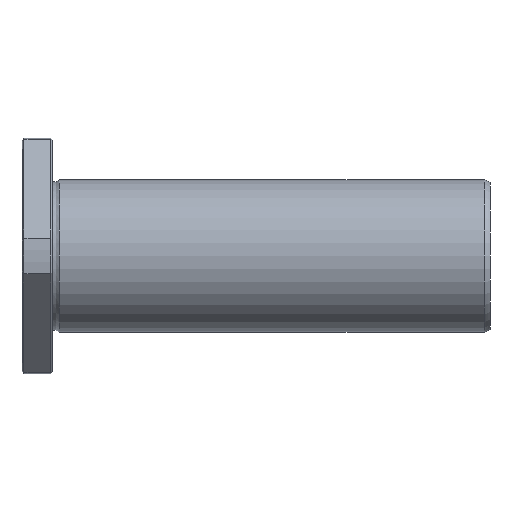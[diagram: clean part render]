
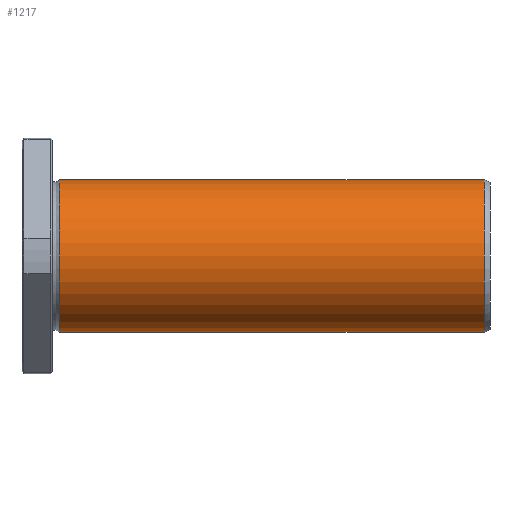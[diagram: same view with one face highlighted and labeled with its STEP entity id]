
A CAD part, front view. The second image highlights one B-rep face of the part: STEP entity #1217.
In plain terms, the highlighted cylindrical face has radius 20 mm (diameter 40 mm), a full revolution.
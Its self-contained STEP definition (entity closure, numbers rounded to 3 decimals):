
#1183=CARTESIAN_POINT('',(121.502,0.0,20.));
#1184=VERTEX_POINT('',#1183);
#1185=CARTESIAN_POINT('',(121.502,0.0,0.0));
#1186=DIRECTION('',(-1.0,0.0,0.0));
#1187=DIRECTION('',(0.0,0.0,1.0));
#1188=AXIS2_PLACEMENT_3D('',#1185,#1186,#1187);
#1189=CIRCLE('',#1188,20.);
#1190=EDGE_CURVE('',#1184,#1184,#1189,.T.);
#1198=CARTESIAN_POINT('',(65.662,0.0,0.0));
#1199=DIRECTION('',(-1.0,0.0,0.0));
#1200=DIRECTION('',(0.0,0.0,1.0));
#1201=AXIS2_PLACEMENT_3D('',#1198,#1199,#1200);
#1202=CYLINDRICAL_SURFACE('',#1201,20.);
#1203=CARTESIAN_POINT('',(9.823,0.0,20.0));
#1204=VERTEX_POINT('',#1203);
#1205=CARTESIAN_POINT('',(9.823,0.0,0.0));
#1206=DIRECTION('',(-1.0,0.0,0.0));
#1207=DIRECTION('',(0.0,0.0,1.0));
#1208=AXIS2_PLACEMENT_3D('',#1205,#1206,#1207);
#1209=CIRCLE('',#1208,20.0);
#1210=EDGE_CURVE('',#1204,#1204,#1209,.T.);
#1211=ORIENTED_EDGE('',*,*,#1210,.F.);
#1212=EDGE_LOOP('',(#1211));
#1213=FACE_OUTER_BOUND('',#1212,.T.);
#1214=ORIENTED_EDGE('',*,*,#1190,.T.);
#1215=EDGE_LOOP('',(#1214));
#1216=FACE_BOUND('',#1215,.T.);
#1217=ADVANCED_FACE('',(#1213,#1216),#1202,.T.);
